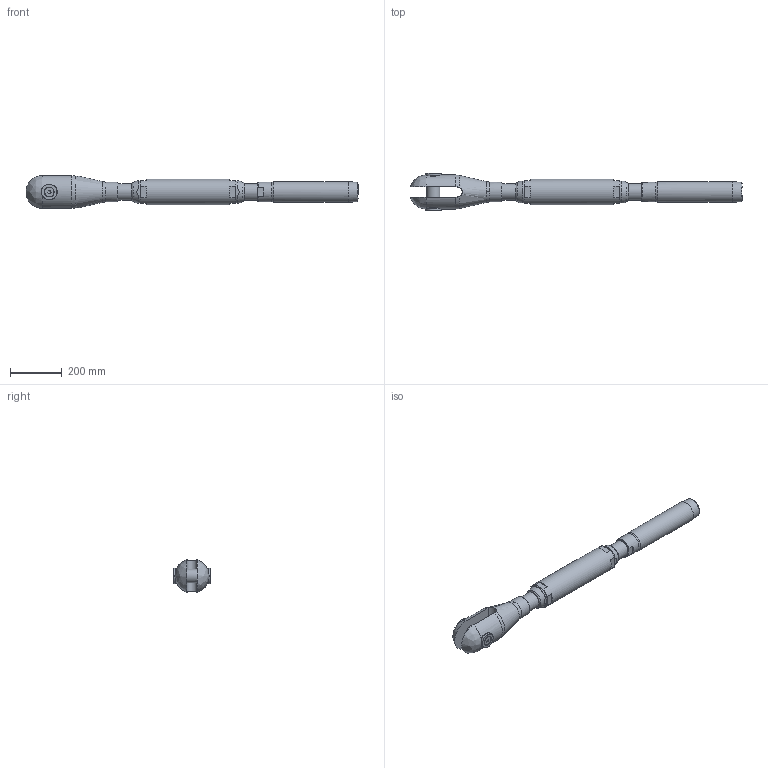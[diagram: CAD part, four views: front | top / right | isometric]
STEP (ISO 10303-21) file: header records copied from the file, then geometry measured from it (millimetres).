
FILE_DESCRIPTION(/* description */ (''),/* implementation_level */ '2;1');
FILE_NAME(/* name */ 'TBC 36_S355',/* time_stamp */ '2023-05-23T18:17:45+02:00',/* author */ (''),/* organization */ (''),/* preprocessor_version */ 'ST-DEVELOPER v16.5',/* originating_system */ 'Rhino 7.22',/* authorisation */ '');
FILE_SCHEMA (('CONFIG_CONTROL_DESIGN'));
Length unit declared in the file: millimetre
Products named in the file (1): Document
Bounding box: 1285.02 x 143.45 x 126.11 mm (x, y, z)
Volume: 7747867.1 mm3; surface area: 651821.4 mm2
Topology: 10 solids, 10 shells, 141 faces, 384 edges, 265 vertices
Faces by surface type: plane 65, bspline 41, cylinder 35
Full cylindrical faces by diameter (mm): 17.294 x2, 20 x2, 21 x2, 35.4 x2, 52 x1, 54 x2, 60 x2, 60.752 x4, 64 x2, 68 x1, 77 x2, 81 x1, 98 x1
Entity records: 5966 total; most frequent: CARTESIAN_POINT 3530, ORIENTED_EDGE 760, EDGE_CURVE 380, VERTEX_POINT 265, EDGE_LOOP 161, B_SPLINE_CURVE_WITH_KNOTS 158, ADVANCED_FACE 141, FACE_OUTER_BOUND 141
